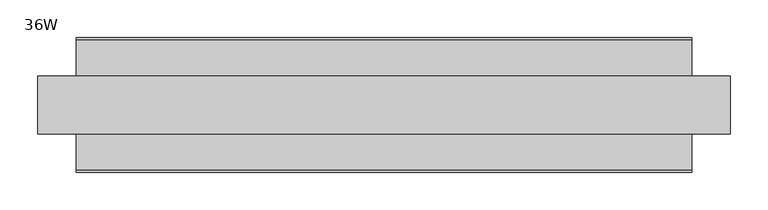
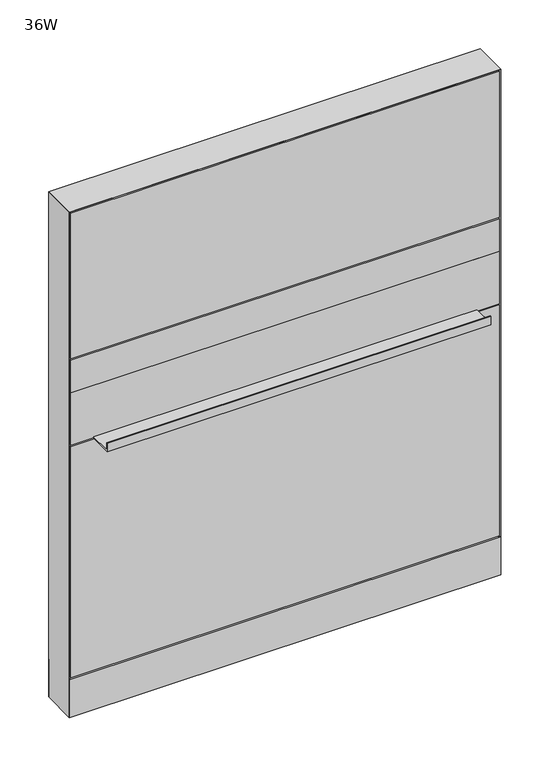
"""IFC4 building model written with IfcOpenShell, lengths in millimetres: furniture geometry, Steelcase - Montage - Frame - 45H - Enhanced Standard - Base and Desk-Height Cavity : 36W."""

from ifc_helpers import new_model, si_unit, point, frame, frame_2d, origin, origin_with_axes, place, context, project, spatial, polyline, circle_curve, trimmed, segment, composite_curve, outline, extrude, faceted_brep, source, transform, mapped, element, save


def furniture_36w_c04763b0(model_context):
    return source(origin(), model_context, "Body", "SolidModel", [
        extrude(outline(polyline([(3.175, 31.7500194), (3.175, 38.1000194), (911.225, 38.1000194), (911.225, 31.7500194), (3.175, 31.7500194)])), frame((0.0, 0.0, 92.075), z_axis=(0.0, 0.0, 1.0), x_axis=(1.0, 0.0, 0.0)), (0.0, 0.0, 1.0), 517.525),
        extrude(outline(polyline([(88.8960768, 612.775), (38.0960752, 612.775), (38.0960752, 615.315), (86.3560768, 615.315), (86.3560768, 631.825), (88.8960768, 631.825), (88.8960768, 612.775)])), frame((50.8000015, 0.0, 0.0), z_axis=(1.0, 0.0, 0.0), x_axis=(0.0, 1.0, 0.0)), (0.0, 0.0, 1.0), 812.799997),
        extrude(outline(polyline([(3.175, 31.7460752), (3.175, 38.0960752), (911.225, 38.0960752), (911.225, 31.7460752), (3.175, 31.7460752)])), frame((0.0, 0.0, 730.2499516), z_axis=(0.0, 0.0, 1.0), x_axis=(1.0, 0.0, 0.0)), (0.0, 0.0, 1.0), 73.0250484),
        extrude(outline(polyline([(3.175, 31.7460752), (3.175, 38.0960752), (911.225, 38.0960752), (911.225, 31.7460752), (3.175, 31.7460752)])), frame((0.0, 0.0, 612.775), z_axis=(0.0, 0.0, 1.0), x_axis=(1.0, 0.0, 0.0)), (0.0, 0.0, 1.0), 117.4749516),
        extrude(outline(polyline([(3.175, 31.7500194), (3.175, 38.1000194), (911.225, 38.1000194), (911.225, 31.7500194), (3.175, 31.7500194)])), frame((0.0, 0.0, 806.45), z_axis=(0.0, 0.0, 1.0), x_axis=(1.0, 0.0, 0.0)), (0.0, 0.0, 1.0), 327.025),
        extrude(outline(polyline([(3.175, -31.7500194), (911.225, -31.7500194), (911.225, -38.1000194), (3.175, -38.1000194), (3.175, -31.7500194)])), frame((0.0, 0.0, 92.075), z_axis=(0.0, 0.0, 1.0), x_axis=(1.0, 0.0, 0.0)), (0.0, 0.0, 1.0), 517.525),
        extrude(outline(polyline([(-88.8960768, 612.775), (-88.8960768, 631.825), (-86.3560768, 631.825), (-86.3560768, 615.315), (-38.0960752, 615.315), (-38.0960752, 612.775), (-88.8960768, 612.775)])), frame((50.8000015, 0.0, 0.0), z_axis=(1.0, 0.0, 0.0), x_axis=(0.0, 1.0, 0.0)), (0.0, 0.0, 1.0), 812.799997),
        extrude(outline(polyline([(3.175, -31.7460752), (911.225, -31.7460752), (911.225, -38.0960752), (3.175, -38.0960752), (3.175, -31.7460752)])), frame((0.0, 0.0, 730.2499516), z_axis=(0.0, 0.0, 1.0), x_axis=(1.0, 0.0, 0.0)), (0.0, 0.0, 1.0), 73.0250484),
        extrude(outline(polyline([(3.175, -31.7460752), (911.225, -31.7460752), (911.225, -38.0960752), (3.175, -38.0960752), (3.175, -31.7460752)])), frame((0.0, 0.0, 612.775), z_axis=(0.0, 0.0, 1.0), x_axis=(1.0, 0.0, 0.0)), (0.0, 0.0, 1.0), 117.4749516),
        extrude(outline(polyline([(3.175, -31.7500194), (911.225, -31.7500194), (911.225, -38.1000194), (3.175, -38.1000194), (3.175, -31.7500194)])), frame((0.0, 0.0, 806.45), z_axis=(0.0, 0.0, 1.0), x_axis=(1.0, 0.0, 0.0)), (0.0, 0.0, 1.0), 327.025),
        extrude(outline(polyline([(908.0499879, 31.749953), (908.0499879, -31.7499985), (6.35, -31.7499985), (6.35, 31.749953), (908.0499879, 31.749953)])), frame((0.0, 0.0, 809.6250242), z_axis=(0.0, 0.0, 1.0), x_axis=(1.0, 0.0, 0.0)), (0.0, 0.0, 1.0), 320.6749273),
        extrude(outline(polyline([(908.0499879, 31.749953), (908.0499879, -31.7499985), (6.35, -31.7499985), (6.35, 31.749953), (908.0499879, 31.749953)])), frame((0.0, 0.0, 619.125), z_axis=(0.0, 0.0, 1.0), x_axis=(1.0, 0.0, 0.0)), (0.0, 0.0, 1.0), 177.8000242),
        extrude(outline(polyline([(908.0499879, 31.7500016), (908.0499879, -31.7499985), (6.35, -31.7499985), (6.35, 31.7500016), (908.0499879, 31.7500016)])), frame((0.0, 0.0, 88.899997), z_axis=(0.0, 0.0, 1.0), x_axis=(1.0, 0.0, 0.0)), (0.0, 0.0, 1.0), 517.525003),
        extrude(outline(polyline([(6.350003, -31.7499985), (908.049997, -31.7499985), (914.4, -38.1000015), (0.0, -38.1000015), (6.350003, -31.7499985)])), frame((0.0, 0.0, 4.064), z_axis=(0.0, 0.0, 1.0), x_axis=(1.0, 0.0, 0.0)), (0.0, 0.0, 1.0), 84.835997),
        extrude(outline(polyline([(6.3500002, 31.7500017), (0.0, 38.1000015), (914.4, 38.1000015), (908.0500002, 31.7500017), (6.3500002, 31.7500017)])), frame((0.0, 0.0, 4.064), z_axis=(0.0, 0.0, 1.0), x_axis=(1.0, 0.0, 0.0)), (0.0, 0.0, 1.0), 84.835997),
        faceted_brep([(914.4, -38.1000015, 1136.65), (0.0, -38.1000015, 1136.65), (6.3500484, -31.749953, 1130.2999516), (908.0499516, -31.749953, 1130.2999516), (6.3500484, 31.749953, 1130.2999516), (908.0499516, 31.749953, 1130.2999516), (0.0, 38.1000015, 1136.65), (914.4, 38.1000015, 1136.65)], [[[0, 1, 2, 3]], [[3, 2, 4, 5]], [[6, 7, 5, 4]], [[1, 0, 7, 6]], [[2, 1, 6, 4]], [[0, 3, 5, 7]]]),
        extrude(outline(composite_curve([segment(trimmed(circle_curve(frame_2d((44.45, 0.0)), 15.24), [point((29.21, 0.0))], [point((59.69, 0.0))], False, "CARTESIAN"), True, "CONTINUOUS"), segment(trimmed(circle_curve(frame_2d((44.45, 0.0)), 15.24), [point((59.69, 0.0))], [point((29.21, 0.0))], False, "CARTESIAN"), True, "CONTINUOUS")], self_intersect=False)), origin_with_axes(), (0.0, 0.0, 1.0), 4.064),
        extrude(outline(composite_curve([segment(trimmed(circle_curve(frame_2d((869.95, 0.0)), 15.24), [point((854.71, 0.0))], [point((885.19, 0.0))], False, "CARTESIAN"), True, "CONTINUOUS"), segment(trimmed(circle_curve(frame_2d((869.95, 0.0)), 15.24), [point((885.19, 0.0))], [point((854.71, 0.0))], False, "CARTESIAN"), True, "CONTINUOUS")], self_intersect=False)), origin_with_axes(), (0.0, 0.0, 1.0), 4.064),
        faceted_brep([(914.4, -38.1000106, 4.064), (914.4, 38.1000015, 4.064), (914.4, 38.1000015, 1136.65), (914.4, -38.1000106, 1136.6499637), (0.0, 38.1000015, 4.064), (0.0, -38.1000015, 4.064), (0.0, -38.1000015, 1136.65), (0.0, 38.1000015, 1136.65), (908.0499879, 31.7500017, 606.425), (6.35, 31.7500017, 606.425), (6.3499998, 31.7500017, 619.125), (908.0499879, 31.7500017, 619.125), (6.35, -31.7499985, 619.125), (908.0499879, -31.7499985, 619.125), (6.350003, -31.7499985, 606.425), (908.0499879, -31.7499985, 606.425), (908.0499879, 31.7500017, 796.9250242), (6.35, 31.7500017, 796.9250242), (6.3499998, 31.7500017, 809.6250242), (908.0499879, 31.7500017, 809.6250242), (6.35, -31.7499985, 809.6250242), (908.0499879, -31.7499985, 809.6250242), (6.350003, -31.7499985, 796.9250242), (908.0499879, -31.7499985, 796.9250242), (6.35, 31.7500015, 4.064), (6.35, -31.7500015, 4.064), (908.0499879, 31.7499894, 4.064), (908.0499879, -31.7499985, 4.064), (6.35, 31.7500015, 1130.3), (6.35, -31.7500015, 1130.3), (908.0499879, -31.7499985, 1130.2999516), (908.0499879, 31.7499896, 1130.2999516)], [[[0, 1, 2, 3]], [[4, 5, 6, 7]], [[8, 9, 10, 11]], [[11, 10, 12, 13]], [[13, 12, 14, 15]], [[9, 8, 15, 14]], [[16, 17, 18, 19]], [[19, 18, 20, 21]], [[21, 20, 22, 23]], [[17, 16, 23, 22]], [[24, 25, 5, 4]], [[26, 1, 0, 27]], [[24, 4, 7, 28, 18, 17, 10, 9]], [[5, 25, 14, 12, 22, 20, 29, 6]], [[20, 18, 28, 29]], [[25, 24, 9, 14]], [[10, 17, 22, 12]], [[19, 21, 30, 31]], [[26, 27, 15, 8]], [[16, 11, 13, 23]], [[27, 0, 3, 30, 21, 23, 13, 15]], [[1, 26, 8, 11, 16, 19, 31, 2]], [[7, 6, 29, 28]], [[3, 2, 31, 30]]]),
    ])


if __name__ == "__main__":
    model = new_model("IFC4")
    model_context = context("Model", 3, world=origin())
    ifc_project = project(units=[si_unit("LENGTHUNIT", "METRE", prefix="MILLI")], contexts=[model_context])
    site = spatial("IfcSite", under=ifc_project)
    building = spatial("IfcBuilding", under=site)
    placement = place(None, origin())
    furniture_36w_shape = furniture_36w_c04763b0(model_context)
    element("IfcFurniture", 1, ObjectType="Steelcase - Montage - Frame - 45H - Enhanced Standard - Base and Desk-Height Cavity : 36W", at=placement, inside=building, context=model_context, shape_type="MappedRepresentation", body=[
        mapped(furniture_36w_shape, transform((0.0, 0.0, 0.0), x_axis=(1.0, 0.0, 0.0), y_axis=(0.0, 1.0, 0.0), z_axis=(0.0, 0.0, 1.0))),
    ])
    save(model, "model.ifc")
